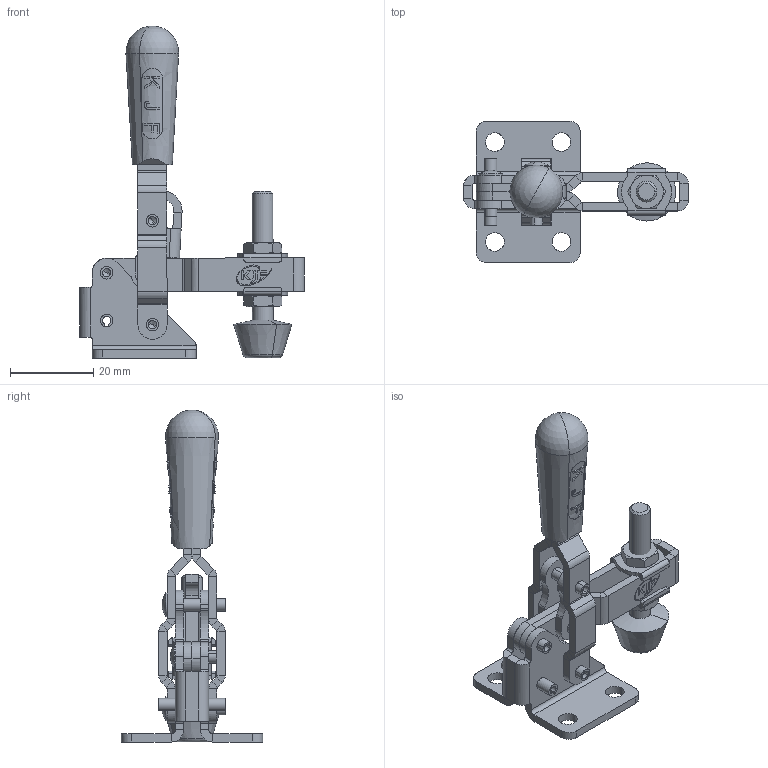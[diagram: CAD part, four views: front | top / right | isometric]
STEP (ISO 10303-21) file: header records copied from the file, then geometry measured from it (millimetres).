
FILE_DESCRIPTION(('CATIA V5 STEP Exchange'),'2;1');
FILE_NAME('\\kjf-102\KJF_TC\Toggle_Clamp\Vertical\KJF-005-11F\Rev_B\배포용\KJF-005-11F_C.stp','2026-05-21T02:47:36+00:00',('none'),('none'),'CATIA Version 5 Release 19 SP 9 (IN-10)','CATIA V5 STEP AP203','none');
FILE_SCHEMA(('CONFIG_CONTROL_DESIGN'));
Products named in the file (1): KJF-005-11F_C
Assembly tree (15 placements, depth 2):
  KJF-005-11F_C
    #58
    #3081
    #33333
    #35074
    #36815
    #39006  x2
    #39353  x2
    #39700
    #41528
    #41703  x2
    #42266
    #52358
Bounding box: 54.01 x 34 x 79.85 mm (x, y, z)
Volume: 11853.9 mm3; surface area: 14330.9 mm2
Topology: 18 solids, 18 shells, 1653 faces, 4533 edges, 2933 vertices
Faces by surface type: plane 1351, cylinder 238, cone 42, sphere 10, torus 10, bspline 2
Entity records: 52678 total; most frequent: CARTESIAN_POINT 13594, ORIENTED_EDGE 8854, DIRECTION 6628, EDGE_CURVE 4427, VECTOR 3386, LINE 3386, VERTEX_POINT 2877, AXIS2_PLACEMENT_3D 1724
